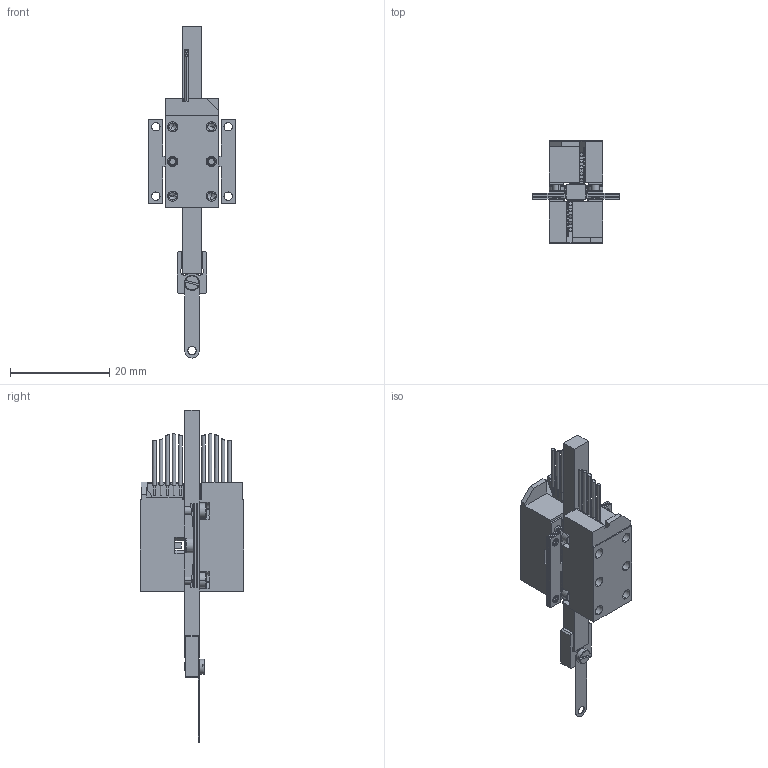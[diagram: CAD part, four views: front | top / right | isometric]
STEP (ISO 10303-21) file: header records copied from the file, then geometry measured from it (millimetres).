
FILE_DESCRIPTION (( 'STEP AP214' ), '1' );
FILE_NAME ('LT2020D-050D1B10-PiezoMotor.STEP', '2017-06-08T12:21:57', ( '' ), ( '' ), 'SwSTEP 2.0', 'SolidWorks 2016', '' );
FILE_SCHEMA (( 'AUTOMOTIVE_DESIGN' ));
Length unit declared in the file: millimetre
Products named in the file (5): LT2020D-xxxxxB10-PiezoMotor; LT2020D-050D1B10-PiezoMotor; LT2020D_DriveRod_050D1D2-PiezoMotor
Assembly tree (2 placements, depth 2):
  LT2020D-xxxxxB10-PiezoMotor
  LT2020D-050D1B10-PiezoMotor
    LT2020D-xxxxxB10-PiezoMotor
    LT2020D_DriveRod_050D1D2-PiezoMotor
  LT2020D_DriveRod_050D1D2-PiezoMotor
Bounding box: 17.5 x 20.92 x 66.95 mm (x, y, z)
Volume: 4007.6 mm3; surface area: 7646.2 mm2
Topology: 52 solids, 52 shells, 972 faces, 2338 edges, 1471 vertices
Faces by surface type: plane 613, cylinder 282, cone 43, torus 24, bspline 10
Entity records: 29177 total; most frequent: CARTESIAN_POINT 5057, DIRECTION 4889, ORIENTED_EDGE 4652, EDGE_CURVE 2326, VECTOR 1643, LINE 1643, AXIS2_PLACEMENT_3D 1623, VERTEX_POINT 1471
